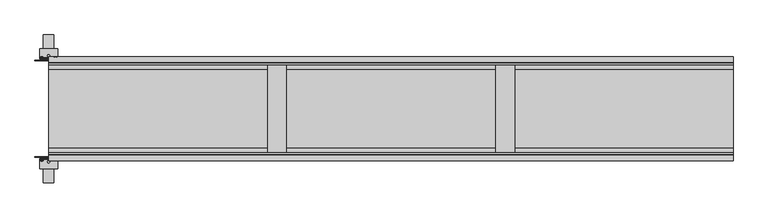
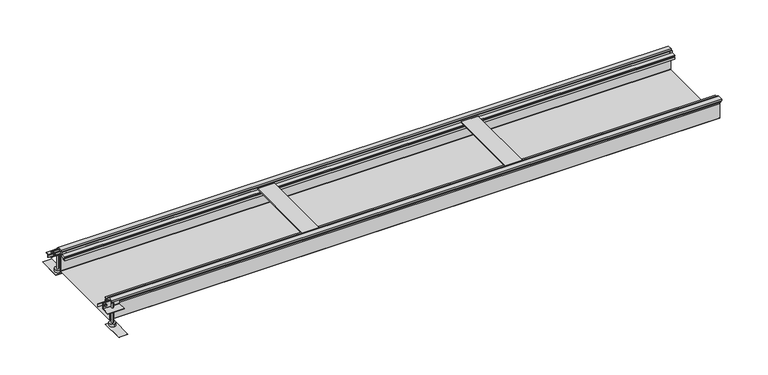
"""IFC4 building model written with IfcOpenShell, lengths in millimetres: proxy geometry."""

from ifc_helpers import new_model, si_unit, point, frame, frame_2d, origin, place, context, project, spatial, polyline, circle_curve, ellipse_curve, trimmed, segment, composite_curve, outline, extrude, source, transform, mapped, element, save
from ifc_brep_helpers import plane_surface, cylinder_surface, revolved_surface, advanced_brep


def electrical_fixtures_f82ab545(model_context):
    return source(origin(), model_context, "Body", "SolidModel", [
        advanced_brep(
        [(-19.209696, -181.6418922, 2.5), (-28.790304, -181.6418922, 2.5), (-28.790304, -179.7, 2.5), (-19.209696, -179.7, 2.5), (-26.562969, -179.7, 2.5), (-21.437031, -179.7, 2.5), (-26.562969, -167.7, 2.5), (-21.437031, -167.7, 2.5), (-24.0, -167.7, 2.5), (-24.0, -183.3479209, 2.5)],
        [
            (0, 1, circle_curve(frame((-24.0, -181.6418922, 2.5), z_axis=(0.0, 1.0, 0.0), x_axis=(-1.0, 0.0, 0.0)), 4.790304)),
            (1, 2),
            (2, 3, circle_curve(frame((-24.0, -179.7, 2.5), z_axis=(0.0, -1.0, 0.0), x_axis=(-1.0, 0.0, 0.0)), 4.790304)),
            (3, 0),
            (1, 0, circle_curve(frame((-24.0, -181.6418922, 2.5), z_axis=(0.0, 1.0, 0.0), x_axis=(-1.0, 0.0, 0.0)), 4.790304)),
            (3, 2, circle_curve(frame((-24.0, -179.7, 2.5), z_axis=(0.0, -1.0, 0.0), x_axis=(-1.0, 0.0, 0.0)), 4.790304)),
            (2, 4),
            (4, 5, circle_curve(frame((-24.0, -179.7, 2.5), z_axis=(0.0, -1.0, 0.0), x_axis=(-1.0, 0.0, 0.0)), 2.562969)),
            (5, 3),
            (5, 4, circle_curve(frame((-24.0, -179.7, 2.5), z_axis=(0.0, -1.0, 0.0), x_axis=(-1.0, 0.0, 0.0)), 2.562969)),
            (4, 6),
            (6, 7, circle_curve(frame((-24.0, -167.7, 2.5), z_axis=(0.0, -1.0, 0.0), x_axis=(-1.0, 0.0, 0.0)), 2.562969)),
            (7, 5),
            (7, 6, circle_curve(frame((-24.0, -167.7, 2.5), z_axis=(0.0, -1.0, 0.0), x_axis=(-1.0, 0.0, 0.0)), 2.562969)),
            (6, 8),
            (8, 7),
            (9, 1, circle_curve(frame((-24.0319066, -175.8592246, 2.5), z_axis=(0.0, 0.0, -1.0), x_axis=(-1.0, 0.0, 0.0)), 7.4887643)),
            (0, 9, circle_curve(frame((-23.9680934, -175.8592246, 2.5), z_axis=(0.0, 0.0, -1.0), x_axis=(1.0, 0.0, 0.0)), 7.4887643)),
        ],
        [
            cylinder_surface(frame((-24.0, -179.2950786, 2.5), z_axis=(0.0, -1.0, 0.0), x_axis=(-1.0, 0.0, 0.0)), 4.790304),
            plane_surface(frame((-24.0, -179.7, 2.5), z_axis=(0.0, 1.0, 0.0), x_axis=(-1.0, 0.0, 0.0))),
            cylinder_surface(frame((-24.0, -179.2950786, 2.5), z_axis=(0.0, -1.0, 0.0), x_axis=(-1.0, 0.0, 0.0)), 2.562969),
            plane_surface(frame((-24.0, -167.7, 2.5), z_axis=(0.0, 1.0, 0.0), x_axis=(-1.0, 0.0, 0.0))),
            revolved_surface(trimmed(ellipse_curve(frame((-24.0319066, -175.8592246, 2.5), z_axis=(0.0, 0.0, 1.0), x_axis=(-1.0, 0.0, 0.0)), 7.4887643, 7.4887643), [point((-28.790304, -181.6418922, 2.5))], [point((-24.0, -183.3479209, 2.5))], True, "CARTESIAN"), (-24.0, -179.2950786, 2.5), (0.0, -1.0, 0.0)),
        ],
        [
            (0, [[1, 2, 3, 4]]),
            (0, [[5, -4, 6, -2]]),
            (1, [[-3, 7, 8, 9]]),
            (1, [[-6, -9, 10, -7]]),
            (2, [[-8, 11, 12, 13]]),
            (2, [[-10, -13, 14, -11]]),
            (3, [[-12, 15, 16]]),
            (3, [[-14, -16, -15]]),
            (4, [[17, -1, 18]]),
            (4, [[-18, -5, -17]]),
        ],
    ),
        advanced_brep(
        [(29.0575247, 179.7, 2.5), (19.4769168, 179.7, 2.5), (19.4769168, 181.6418922, 2.5), (29.0575247, 181.6418922, 2.5), (26.8301898, 179.7, 2.5), (21.7042517, 179.7, 2.5), (26.8301898, 167.7, 2.5), (21.7042517, 167.7, 2.5), (24.2672208, 167.7, 2.5), (24.2672208, 183.3479209, 2.5)],
        [
            (0, 1, circle_curve(frame((24.2672208, 179.7, 2.5), z_axis=(0.0, 1.0, 0.0), x_axis=(-1.0, 0.0, 0.0)), 4.790304)),
            (1, 2),
            (2, 3, circle_curve(frame((24.2672208, 181.6418922, 2.5), z_axis=(0.0, -1.0, 0.0), x_axis=(-1.0, 0.0, 0.0)), 4.790304)),
            (3, 0),
            (1, 0, circle_curve(frame((24.2672208, 179.7, 2.5), z_axis=(0.0, 1.0, 0.0), x_axis=(-1.0, 0.0, 0.0)), 4.790304)),
            (3, 2, circle_curve(frame((24.2672208, 181.6418922, 2.5), z_axis=(0.0, -1.0, 0.0), x_axis=(-1.0, 0.0, 0.0)), 4.790304)),
            (4, 5, circle_curve(frame((24.2672208, 179.7, 2.5), z_axis=(0.0, 1.0, 0.0), x_axis=(-1.0, 0.0, 0.0)), 2.562969)),
            (5, 1),
            (0, 4),
            (5, 4, circle_curve(frame((24.2672208, 179.7, 2.5), z_axis=(0.0, 1.0, 0.0), x_axis=(-1.0, 0.0, 0.0)), 2.562969)),
            (6, 7, circle_curve(frame((24.2672208, 167.7, 2.5), z_axis=(0.0, 1.0, 0.0), x_axis=(-1.0, 0.0, 0.0)), 2.562969)),
            (7, 5),
            (4, 6),
            (7, 6, circle_curve(frame((24.2672208, 167.7, 2.5), z_axis=(0.0, 1.0, 0.0), x_axis=(-1.0, 0.0, 0.0)), 2.562969)),
            (8, 7),
            (6, 8),
            (2, 9, circle_curve(frame((24.2353142, 175.8592246, 2.5), z_axis=(0.0, 0.0, -1.0), x_axis=(-1.0, 0.0, 0.0)), 7.4887643)),
            (9, 3, circle_curve(frame((24.2991274, 175.8592246, 2.5), z_axis=(0.0, 0.0, -1.0), x_axis=(1.0, 0.0, 0.0)), 7.4887643)),
        ],
        [
            cylinder_surface(frame((24.2672208, 179.2950786, 2.5), z_axis=(0.0, -1.0, 0.0), x_axis=(-1.0, 0.0, 0.0)), 4.790304),
            plane_surface(frame((24.2672208, 179.7, 2.5), z_axis=(0.0, -1.0, 0.0), x_axis=(-1.0, 0.0, 0.0))),
            cylinder_surface(frame((24.2672208, 179.2950786, 2.5), z_axis=(0.0, -1.0, 0.0), x_axis=(-1.0, 0.0, 0.0)), 2.562969),
            plane_surface(frame((24.2672208, 167.7, 2.5), z_axis=(0.0, -1.0, 0.0), x_axis=(-1.0, 0.0, 0.0))),
            revolved_surface(trimmed(ellipse_curve(frame((24.2353142, 175.8592246, 2.5), z_axis=(0.0, 0.0, 1.0), x_axis=(-1.0, 0.0, 0.0)), 7.4887643, 7.4887643), [point((24.2672208, 183.3479209, 2.5))], [point((19.4769168, 181.6418922, 2.5))], True, "CARTESIAN"), (24.2672208, 179.2950786, 2.5), (0.0, -1.0, 0.0)),
        ],
        [
            (0, [[1, 2, 3, 4]]),
            (0, [[5, -4, 6, -2]]),
            (1, [[7, 8, -1, 9]]),
            (1, [[10, -9, -5, -8]]),
            (2, [[11, 12, -7, 13]]),
            (2, [[14, -13, -10, -12]]),
            (3, [[15, -11, 16]]),
            (3, [[-16, -14, -15]]),
            (4, [[-3, 17, 18]]),
            (4, [[-6, -18, -17]]),
        ],
    ),
        advanced_brep(
        [(-19.209696, 179.7, 2.5), (-28.790304, 179.7, 2.5), (-28.790304, 181.6418922, 2.5), (-19.209696, 181.6418922, 2.5), (-21.437031, 179.7, 2.5), (-26.562969, 179.7, 2.5), (-21.437031, 167.7, 2.5), (-26.562969, 167.7, 2.5), (-24.0, 167.7, 2.5), (-24.0, 183.3479209, 2.5)],
        [
            (0, 1, circle_curve(frame((-24.0, 179.7, 2.5), z_axis=(0.0, 1.0, 0.0), x_axis=(-1.0, 0.0, 0.0)), 4.790304)),
            (1, 2),
            (2, 3, circle_curve(frame((-24.0, 181.6418922, 2.5), z_axis=(0.0, -1.0, 0.0), x_axis=(-1.0, 0.0, 0.0)), 4.790304)),
            (3, 0),
            (1, 0, circle_curve(frame((-24.0, 179.7, 2.5), z_axis=(0.0, 1.0, 0.0), x_axis=(-1.0, 0.0, 0.0)), 4.790304)),
            (3, 2, circle_curve(frame((-24.0, 181.6418922, 2.5), z_axis=(0.0, -1.0, 0.0), x_axis=(-1.0, 0.0, 0.0)), 4.790304)),
            (4, 5, circle_curve(frame((-24.0, 179.7, 2.5), z_axis=(0.0, 1.0, 0.0), x_axis=(-1.0, 0.0, 0.0)), 2.562969)),
            (5, 1),
            (0, 4),
            (5, 4, circle_curve(frame((-24.0, 179.7, 2.5), z_axis=(0.0, 1.0, 0.0), x_axis=(-1.0, 0.0, 0.0)), 2.562969)),
            (6, 7, circle_curve(frame((-24.0, 167.7, 2.5), z_axis=(0.0, 1.0, 0.0), x_axis=(-1.0, 0.0, 0.0)), 2.562969)),
            (7, 5),
            (4, 6),
            (7, 6, circle_curve(frame((-24.0, 167.7, 2.5), z_axis=(0.0, 1.0, 0.0), x_axis=(-1.0, 0.0, 0.0)), 2.562969)),
            (8, 7),
            (6, 8),
            (2, 9, circle_curve(frame((-24.0319066, 175.8592246, 2.5), z_axis=(0.0, 0.0, -1.0), x_axis=(-1.0, 0.0, 0.0)), 7.4887643)),
            (9, 3, circle_curve(frame((-23.9680934, 175.8592246, 2.5), z_axis=(0.0, 0.0, -1.0), x_axis=(1.0, 0.0, 0.0)), 7.4887643)),
        ],
        [
            cylinder_surface(frame((-24.0, 179.2950786, 2.5), z_axis=(0.0, -1.0, 0.0), x_axis=(-1.0, 0.0, 0.0)), 4.790304),
            plane_surface(frame((-24.0, 179.7, 2.5), z_axis=(0.0, -1.0, 0.0), x_axis=(-1.0, 0.0, 0.0))),
            cylinder_surface(frame((-24.0, 179.2950786, 2.5), z_axis=(0.0, -1.0, 0.0), x_axis=(-1.0, 0.0, 0.0)), 2.562969),
            plane_surface(frame((-24.0, 167.7, 2.5), z_axis=(0.0, -1.0, 0.0), x_axis=(-1.0, 0.0, 0.0))),
            revolved_surface(trimmed(ellipse_curve(frame((-24.0319066, 175.8592246, 2.5), z_axis=(0.0, 0.0, 1.0), x_axis=(-1.0, 0.0, 0.0)), 7.4887643, 7.4887643), [point((-24.0, 183.3479209, 2.5))], [point((-28.790304, 181.6418922, 2.5))], True, "CARTESIAN"), (-24.0, 179.2950786, 2.5), (0.0, -1.0, 0.0)),
        ],
        [
            (0, [[1, 2, 3, 4]]),
            (0, [[5, -4, 6, -2]]),
            (1, [[7, 8, -1, 9]]),
            (1, [[10, -9, -5, -8]]),
            (2, [[11, 12, -7, 13]]),
            (2, [[14, -13, -10, -12]]),
            (3, [[15, -11, 16]]),
            (3, [[-16, -14, -15]]),
            (4, [[-3, 17, 18]]),
            (4, [[-6, -18, -17]]),
        ],
    ),
        extrude(outline(polyline([(-48.0, 167.7), (-48.0, 170.7), (48.0, 170.7), (48.0, 167.7), (-48.0, 167.7)])), frame((0.0, 0.0, -2.5), z_axis=(0.0, 0.0, 1.0), x_axis=(1.0, 0.0, 0.0)), (0.0, 0.0, 1.0), 10.0),
        extrude(outline(polyline([(-48.0, -170.7), (-48.0, -167.7), (48.0, -167.7), (48.0, -170.7), (-48.0, -170.7)])), frame((0.0, 0.0, -2.5), z_axis=(0.0, 0.0, 1.0), x_axis=(1.0, 0.0, 0.0)), (0.0, 0.0, 1.0), 10.0),
        extrude(outline(composite_curve([segment(polyline([(175.6, 10.9), (177.6, 10.9), (177.6, -11.1088822)]), True, "CONTINUOUS"), segment(trimmed(circle_curve(frame_2d((178.5911178, -11.1088822)), 0.9911178), [point((177.6, -11.1088822))], [point((178.5911178, -12.1))], True, "CARTESIAN"), True, "CONTINUOUS"), segment(polyline([(178.5911178, -12.1), (210.6, -12.1), (210.6, -14.1), (178.6002521, -14.1)]), True, "CONTINUOUS"), segment(trimmed(circle_curve(frame_2d((178.6002521, -11.0997479)), 3.0002521), [point((178.6002521, -14.1))], [point((175.6, -11.0997479))], False, "CARTESIAN"), True, "CONTINUOUS"), segment(polyline([(175.6, -11.0997479), (175.6, 10.9)]), True, "CONTINUOUS")], self_intersect=False)), frame((-31.7, 0.0, 0.0), z_axis=(1.0, 0.0, 0.0), x_axis=(0.0, 1.0, 0.0)), (0.0, 0.0, 1.0), 63.4),
        extrude(outline(composite_curve([segment(polyline([(-175.6, 10.9), (-175.6, -11.0997479)]), True, "CONTINUOUS"), segment(trimmed(circle_curve(frame_2d((-178.6002521, -11.0997479)), 3.0002521), [point((-175.6, -11.0997479))], [point((-178.6002521, -14.1))], False, "CARTESIAN"), True, "CONTINUOUS"), segment(polyline([(-178.6002521, -14.1), (-210.6, -14.1), (-210.6, -12.1), (-178.5911178, -12.1)]), True, "CONTINUOUS"), segment(trimmed(circle_curve(frame_2d((-178.5911178, -11.1088822)), 0.9911178), [point((-178.5911178, -12.1))], [point((-177.6, -11.1088822))], True, "CARTESIAN"), True, "CONTINUOUS"), segment(polyline([(-177.6, -11.1088822), (-177.6, 10.9), (-175.6, 10.9)]), True, "CONTINUOUS")], self_intersect=False)), frame((-31.7, 0.0, 0.0), z_axis=(1.0, 0.0, 0.0), x_axis=(0.0, 1.0, 0.0)), (0.0, 0.0, 1.0), 63.4),
        extrude(outline(composite_curve([segment(trimmed(circle_curve(frame_2d((0.0, 186.1712378)), 3.9923162), [point((0.0, 190.163554))], [point((0.0, 182.1789216))], False, "CARTESIAN"), True, "CONTINUOUS"), segment(trimmed(circle_curve(frame_2d((0.0, 186.1712378)), 3.9923162), [point((0.0, 182.1789216))], [point((0.0, 190.163554))], False, "CARTESIAN"), True, "CONTINUOUS")], self_intersect=False)), frame((0.0, 0.0, -74.8), z_axis=(0.0, 0.0, 1.0), x_axis=(1.0, 0.0, 0.0)), (0.0, 0.0, 1.0), 81.8),
        extrude(outline(composite_curve([segment(trimmed(circle_curve(frame_2d((0.0, -186.0787011)), 3.991847), [point((0.0, -182.0868541))], [point((0.0, -190.0705482))], False, "CARTESIAN"), True, "CONTINUOUS"), segment(trimmed(circle_curve(frame_2d((0.0, -186.0787011)), 3.991847), [point((0.0, -190.0705482))], [point((0.0, -182.0868541))], False, "CARTESIAN"), True, "CONTINUOUS")], self_intersect=False)), frame((0.0, 0.0, -74.8), z_axis=(0.0, 0.0, 1.0), x_axis=(1.0, 0.0, 0.0)), (0.0, 0.0, 1.0), 81.8),
        extrude(outline(composite_curve([segment(trimmed(circle_curve(frame_2d((0.0, 186.1652527)), 12.0), [point((0.0, 198.1652527))], [point((0.0, 174.1652527))], False, "CARTESIAN"), True, "CONTINUOUS"), segment(trimmed(circle_curve(frame_2d((0.0, 186.1652527)), 12.0), [point((0.0, 174.1652527))], [point((0.0, 198.1652527))], False, "CARTESIAN"), True, "CONTINUOUS")], self_intersect=False)), frame((0.0, 0.0, -85.5), z_axis=(0.0, 0.0, 1.0), x_axis=(1.0, 0.0, 0.0)), (0.0, 0.0, 1.0), 10.7),
        extrude(outline(composite_curve([segment(trimmed(circle_curve(frame_2d((0.0, -186.112037)), 12.0), [point((0.0, -174.112037))], [point((0.0, -198.112037))], False, "CARTESIAN"), True, "CONTINUOUS"), segment(trimmed(circle_curve(frame_2d((0.0, -186.112037)), 12.0), [point((0.0, -198.112037))], [point((0.0, -174.112037))], False, "CARTESIAN"), True, "CONTINUOUS")], self_intersect=False)), frame((0.0, 0.0, -85.5), z_axis=(0.0, 0.0, 1.0), x_axis=(1.0, 0.0, 0.0)), (0.0, 0.0, 1.0), 10.7),
        extrude(outline(polyline([(18.0, 169.1), (-18.0, 169.1), (-18.0, 259.1), (18.0, 259.1), (18.0, 169.1)])), frame((0.0, 0.0, -87.0), z_axis=(0.0, 0.0, 1.0), x_axis=(1.0, 0.0, 0.0)), (0.0, 0.0, 1.0), 1.5),
        extrude(outline(polyline([(18.0, -259.1), (-18.0, -259.1), (-18.0, -169.1), (18.0, -169.1), (18.0, -259.1)])), frame((0.0, 0.0, -87.0), z_axis=(0.0, 0.0, 1.0), x_axis=(1.0, 0.0, 0.0)), (0.0, 0.0, 1.0), 1.5),
        extrude(outline(polyline([(1633.5851476, 154.8), (1633.5851476, -154.8), (1568.585332, -154.8), (1568.585332, 154.8), (1633.5851476, 154.8)])), frame((0.0, 0.0, 2.5), z_axis=(0.0, 0.0, 1.0), x_axis=(1.0, 0.0, 0.0)), (0.0, 0.0, 1.0), 4.2),
        extrude(outline(polyline([(833.5851476, 154.8), (833.5851476, -154.8), (768.585332, -154.8), (768.585332, 154.8), (833.5851476, 154.8)])), frame((0.0, 0.0, 2.5), z_axis=(0.0, 0.0, 1.0), x_axis=(1.0, 0.0, 0.0)), (0.0, 0.0, 1.0), 4.2),
        extrude(outline(polyline([(183.0, 6.7), (165.0, 6.7), (165.0, -2.5), (175.475, -2.5), (175.475, -4.0), (169.6, -4.0), (169.6, -14.0), (168.1, -14.0), (168.1, -4.0), (160.1, -4.0), (160.1, -10.1), (148.3, -10.1), (148.3, -14.0), (138.1, -14.0), (138.1, -6.6607064), (141.0, -6.6607064), (141.0, -12.5), (145.7, -12.5), (145.7, 0.5), (141.0, 0.5), (141.0, -2.1), (137.9910979, -2.1), (137.9910979, 2.5), (154.8, 2.5), (154.8, 10.0), (160.0, 10.0), (160.0, -0.5), (163.0, -0.5), (163.0, 13.0), (183.0, 13.0), (183.0, 6.7)])), frame((0.0, 0.0, 0.0), z_axis=(1.0, 0.0, 0.0), x_axis=(0.0, 1.0, 0.0)), (0.0, 0.0, 1.0), 2400.0),
        extrude(outline(polyline([(-183.0, 6.7), (-183.0, 13.0), (-163.0, 13.0), (-163.0, -0.5), (-160.0, -0.5), (-160.0, 10.0), (-154.8, 10.0), (-154.8, 2.5), (-137.9910979, 2.5), (-137.9910979, -2.1), (-141.0, -2.1), (-141.0, 0.5), (-145.7, 0.5), (-145.7, -12.5), (-141.0, -12.5), (-141.0, -6.6607064), (-138.1, -6.6607064), (-138.1, -14.0), (-148.3, -14.0), (-148.3, -10.1), (-160.1, -10.1), (-160.1, -4.0), (-168.1, -4.0), (-168.1, -14.0), (-169.6, -14.0), (-169.6, -4.0), (-175.475, -4.0), (-175.475, -2.5), (-165.0, -2.5), (-165.0, 6.7), (-183.0, 6.7)])), frame((0.0, 0.0, 0.0), z_axis=(1.0, 0.0, 0.0), x_axis=(0.0, 1.0, 0.0)), (0.0, 0.0, 1.0), 2400.0),
        extrude(outline(composite_curve([segment(polyline([(166.0, -5.0), (161.0, -5.0), (161.0, -4.0), (166.0, -4.0)]), True, "CONTINUOUS"), segment(trimmed(circle_curve(frame_2d((166.0, -6.0)), 2.0), [point((166.0, -4.0))], [point((168.0, -6.0))], False, "CARTESIAN"), True, "CONTINUOUS"), segment(polyline([(168.0, -6.0), (168.0, -74.0)]), True, "CONTINUOUS"), segment(trimmed(circle_curve(frame_2d((166.0, -74.0)), 2.0), [point((168.0, -74.0))], [point((166.0, -76.0))], False, "CARTESIAN"), True, "CONTINUOUS"), segment(polyline([(166.0, -76.0), (-165.9892454, -76.0)]), True, "CONTINUOUS"), segment(trimmed(circle_curve(frame_2d((-165.9892454, -73.9892454)), 2.0107546), [point((-165.9892454, -76.0))], [point((-168.0, -73.9892454))], False, "CARTESIAN"), True, "CONTINUOUS"), segment(polyline([(-168.0, -73.9892454), (-168.0, -5.9843923)]), True, "CONTINUOUS"), segment(trimmed(circle_curve(frame_2d((-166.0156077, -5.9843923)), 1.9843923), [point((-168.0, -5.9843923))], [point((-166.0156077, -4.0))], False, "CARTESIAN"), True, "CONTINUOUS"), segment(polyline([(-166.0156077, -4.0), (-161.0, -4.0), (-161.0, -5.0), (-165.9930712, -5.0)]), True, "CONTINUOUS"), segment(trimmed(circle_curve(frame_2d((-165.9930712, -6.0069288)), 1.0069288), [point((-165.9930712, -5.0))], [point((-167.0, -6.0069288))], True, "CARTESIAN"), True, "CONTINUOUS"), segment(polyline([(-167.0, -6.0069288), (-167.0, -73.9588562)]), True, "CONTINUOUS"), segment(trimmed(circle_curve(frame_2d((-165.9588562, -73.9588562)), 1.0411438), [point((-167.0, -73.9588562))], [point((-165.9588562, -75.0))], True, "CARTESIAN"), True, "CONTINUOUS"), segment(polyline([(-165.9588562, -75.0), (166.0, -75.0)]), True, "CONTINUOUS"), segment(trimmed(circle_curve(frame_2d((166.0, -74.0)), 1.0), [point((166.0, -75.0))], [point((167.0, -74.0))], True, "CARTESIAN"), True, "CONTINUOUS"), segment(polyline([(167.0, -74.0), (167.0, -6.0)]), True, "CONTINUOUS"), segment(trimmed(circle_curve(frame_2d((166.0, -6.0)), 1.0), [point((167.0, -6.0))], [point((166.0, -5.0))], True, "CARTESIAN"), True, "CONTINUOUS")], self_intersect=False)), frame((0.0, 0.0, 0.0), z_axis=(1.0, 0.0, 0.0), x_axis=(0.0, 1.0, 0.0)), (0.0, 0.0, 1.0), 2400.0),
    ])


if __name__ == "__main__":
    model = new_model("IFC4")
    model_context = context("Model", 3, world=origin())
    ifc_project = project(units=[si_unit("LENGTHUNIT", "METRE", prefix="MILLI")], contexts=[model_context])
    site = spatial("IfcSite", under=ifc_project)
    building = spatial("IfcBuilding", under=site)
    placement = place(None, origin())
    electrical_fixtures_shape = electrical_fixtures_f82ab545(model_context)
    element("IfcBuildingElementProxy", 1, Name="Electrical Fixtures", at=placement, inside=building, context=model_context, shape_type="MappedRepresentation", body=[
        mapped(electrical_fixtures_shape, transform((0.0, 0.0, 0.0), x_axis=(1.0, 0.0, 0.0), y_axis=(0.0, 1.0, 0.0), z_axis=(0.0, 0.0, 1.0))),
    ])
    save(model, "model.ifc")
